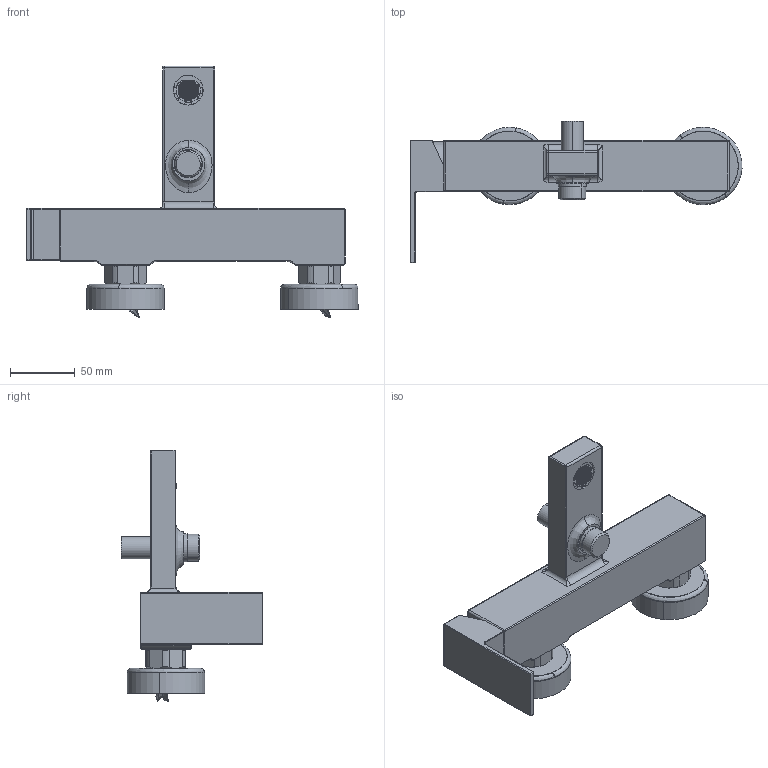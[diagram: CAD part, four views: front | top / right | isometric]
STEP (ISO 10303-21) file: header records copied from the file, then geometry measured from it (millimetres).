
FILE_DESCRIPTION (( 'STEP AP214' ), '1' );
FILE_NAME ('58101510 x architetti.STEP', '2025-01-20T14:26:16', ( '' ), ( '' ), 'SwSTEP 2.0', 'SolidWorks 2020', '' );
FILE_SCHEMA (( 'AUTOMOTIVE_DESIGN' ));
Length unit declared in the file: millimetre
Products named in the file (1): 58101510 x architetti
Bounding box: 256.95 x 109.55 x 194.96 mm (x, y, z)
Surface area: 107375.7 mm2 (no closed solid volume)
Topology: 0 solids, 25 shells, 1507 faces, 3602 edges, 2348 vertices
Faces by surface type: plane 1186, cylinder 181, bspline 78, cone 52, torus 10
Entity records: 64082 total; most frequent: CARTESIAN_POINT 15488, ORIENTED_EDGE 7168, DIRECTION 6683, EDGE_CURVE 3588, VECTOR 2943, LINE 2943, VERTEX_POINT 2348, AXIS2_PLACEMENT_3D 1870
